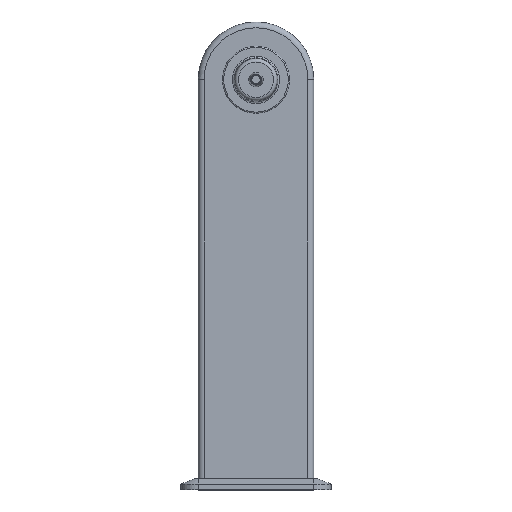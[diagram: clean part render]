
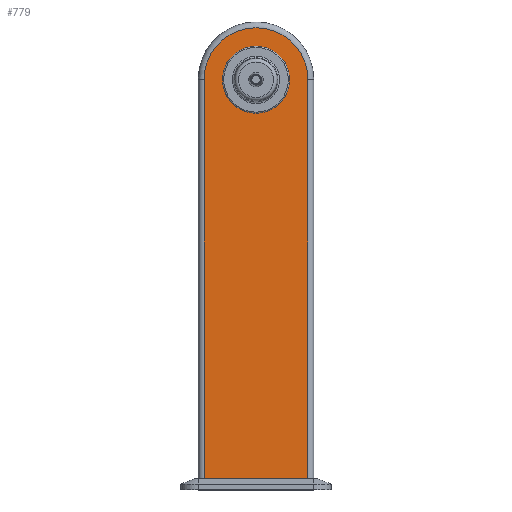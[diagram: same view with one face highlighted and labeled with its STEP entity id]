
A CAD part, top view. The second image highlights one B-rep face of the part: STEP entity #779.
In plain terms, the highlighted planar face has unit normal (0, 0, 1).
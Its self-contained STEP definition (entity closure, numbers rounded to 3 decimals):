
#27 = CARTESIAN_POINT ( 'NONE',  ( -90., -710., 31.25 ) ) ;
#62 = DIRECTION ( 'NONE',  ( 1., 0., 0. ) ) ;
#79 = EDGE_LOOP ( 'NONE', ( #621 ) ) ;
#100 = CARTESIAN_POINT ( 'NONE',  ( 0., -690., 31.25 ) ) ;
#174 = DIRECTION ( 'NONE',  ( 0., -1., 0. ) ) ;
#204 = ORIENTED_EDGE ( 'NONE', *, *, #866, .T. ) ;
#234 = VERTEX_POINT ( 'NONE', #888 ) ;
#253 = DIRECTION ( 'NONE',  ( 1., 0., 0. ) ) ;
#308 = CARTESIAN_POINT ( 'NONE',  ( 0., 0., 31.25 ) ) ;
#311 = CARTESIAN_POINT ( 'NONE',  ( 58., 0., 31.25 ) ) ;
#325 = PLANE ( 'NONE',  #508 ) ;
#391 = DIRECTION ( 'NONE',  ( 0., 0., 1. ) ) ;
#413 = VECTOR ( 'NONE', #1669, 1000. ) ;
#415 = VECTOR ( 'NONE', #174, 1000. ) ;
#419 = LINE ( 'NONE', #27, #415 ) ;
#427 = AXIS2_PLACEMENT_3D ( 'NONE', #1642, #1641, #1640 ) ;
#433 = VERTEX_POINT ( 'NONE', #311 ) ;
#434 = AXIS2_PLACEMENT_3D ( 'NONE', #1654, #1653, #1651 ) ;
#477 = CARTESIAN_POINT ( 'NONE',  ( -90., -690., 31.25 ) ) ;
#508 = AXIS2_PLACEMENT_3D ( 'NONE', #308, #391, #253 ) ;
#528 = CARTESIAN_POINT ( 'NONE',  ( 90., 0., 31.25 ) ) ;
#621 = ORIENTED_EDGE ( 'NONE', *, *, #891, .F. ) ;
#658 = VERTEX_POINT ( 'NONE', #528 ) ;
#779 = ADVANCED_FACE ( 'NONE', ( #1660, #839 ), #325, .T. ) ;
#819 = CIRCLE ( 'NONE', #427, 58. ) ;
#822 = VECTOR ( 'NONE', #62, 1000. ) ;
#839 = FACE_BOUND ( 'NONE', #79, .T. ) ;
#866 = EDGE_CURVE ( 'NONE', #1077, #1430, #419, .T. ) ;
#868 = EDGE_CURVE ( 'NONE', #1430, #234, #1652, .T. ) ;
#876 = EDGE_CURVE ( 'NONE', #234, #658, #1282, .T. ) ;
#888 = CARTESIAN_POINT ( 'NONE',  ( 90., -690., 31.25 ) ) ;
#889 = EDGE_CURVE ( 'NONE', #658, #1077, #1267, .T. ) ;
#891 = EDGE_CURVE ( 'NONE', #433, #433, #819, .T. ) ;
#1050 = ORIENTED_EDGE ( 'NONE', *, *, #876, .T. ) ;
#1077 = VERTEX_POINT ( 'NONE', #1329 ) ;
#1267 = CIRCLE ( 'NONE', #434, 90. ) ;
#1282 = LINE ( 'NONE', #1674, #413 ) ;
#1329 = CARTESIAN_POINT ( 'NONE',  ( -90., 0., 31.25 ) ) ;
#1430 = VERTEX_POINT ( 'NONE', #477 ) ;
#1471 = ORIENTED_EDGE ( 'NONE', *, *, #868, .T. ) ;
#1640 = DIRECTION ( 'NONE',  ( 1., 0., 0. ) ) ;
#1641 = DIRECTION ( 'NONE',  ( 0., 0., 1. ) ) ;
#1642 = CARTESIAN_POINT ( 'NONE',  ( 0., 0., 31.25 ) ) ;
#1652 = LINE ( 'NONE', #100, #822 ) ;
#1651 = DIRECTION ( 'NONE',  ( 1., 0., 0. ) ) ;
#1653 = DIRECTION ( 'NONE',  ( 0., 0., 1. ) ) ;
#1654 = CARTESIAN_POINT ( 'NONE',  ( 0., 0., 31.25 ) ) ;
#1660 = FACE_OUTER_BOUND ( 'NONE', #1689, .T. ) ;
#1669 = DIRECTION ( 'NONE',  ( 0., 1., 0. ) ) ;
#1674 = CARTESIAN_POINT ( 'NONE',  ( 90., 0., 31.25 ) ) ;
#1689 = EDGE_LOOP ( 'NONE', ( #204, #1471, #1050, #1743 ) ) ;
#1743 = ORIENTED_EDGE ( 'NONE', *, *, #889, .T. ) ;
